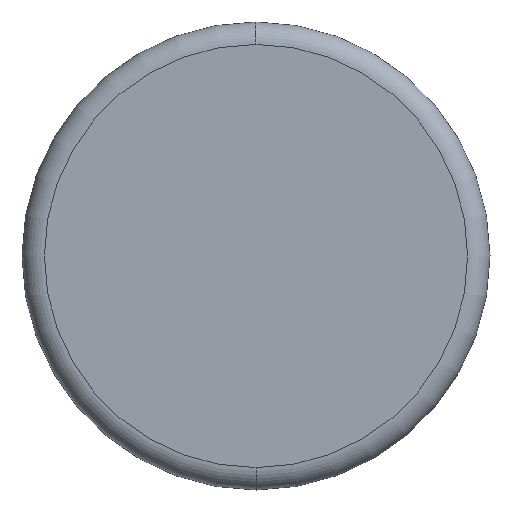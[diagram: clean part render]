
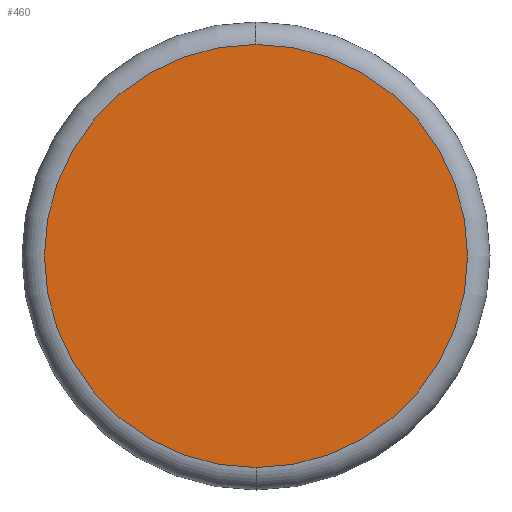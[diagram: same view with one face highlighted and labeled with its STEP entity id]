
A CAD part, left-side view. The second image highlights one B-rep face of the part: STEP entity #460.
In plain terms, the highlighted planar face has unit normal (-1, 0, 0).
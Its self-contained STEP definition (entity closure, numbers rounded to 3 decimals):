
#49=CARTESIAN_POINT('',(-16.95,0.,-25.5));
#50=VERTEX_POINT('',#49);
#60=CARTESIAN_POINT('',(-16.95,25.5,0.0));
#61=VERTEX_POINT('',#60);
#62=CARTESIAN_POINT('',(-16.95,0.,0.0));
#63=DIRECTION('',(1.0,0.0,0.0));
#64=DIRECTION('',(0.0,1.0,0.0));
#65=AXIS2_PLACEMENT_3D('',#62,#63,#64);
#66=CIRCLE('',#65,25.5);
#67=EDGE_CURVE('',#50,#61,#66,.T.);
#69=CARTESIAN_POINT('',(-16.95,0.,25.5));
#70=VERTEX_POINT('',#69);
#71=CARTESIAN_POINT('',(-16.95,0.,0.0));
#72=DIRECTION('',(1.0,0.0,0.0));
#73=DIRECTION('',(0.0,1.0,0.0));
#74=AXIS2_PLACEMENT_3D('',#71,#72,#73);
#75=CIRCLE('',#74,25.5);
#76=EDGE_CURVE('',#61,#70,#75,.T.);
#444=CARTESIAN_POINT('',(-16.95,12.75,0.0));
#445=DIRECTION('',(-1.0,0.0,0.0));
#446=DIRECTION('',(0.0,0.0,1.0));
#447=AXIS2_PLACEMENT_3D('',#444,#445,#446);
#448=PLANE('',#447);
#449=ORIENTED_EDGE('',*,*,#76,.F.);
#450=ORIENTED_EDGE('',*,*,#67,.F.);
#451=CARTESIAN_POINT('',(-16.95,0.,0.0));
#452=DIRECTION('',(1.0,0.0,0.0));
#453=DIRECTION('',(0.0,1.0,0.0));
#454=AXIS2_PLACEMENT_3D('',#451,#452,#453);
#455=CIRCLE('',#454,25.5);
#456=EDGE_CURVE('',#70,#50,#455,.T.);
#457=ORIENTED_EDGE('',*,*,#456,.F.);
#458=EDGE_LOOP('',(#449,#450,#457));
#459=FACE_OUTER_BOUND('',#458,.T.);
#460=ADVANCED_FACE('',(#459),#448,.T.);
